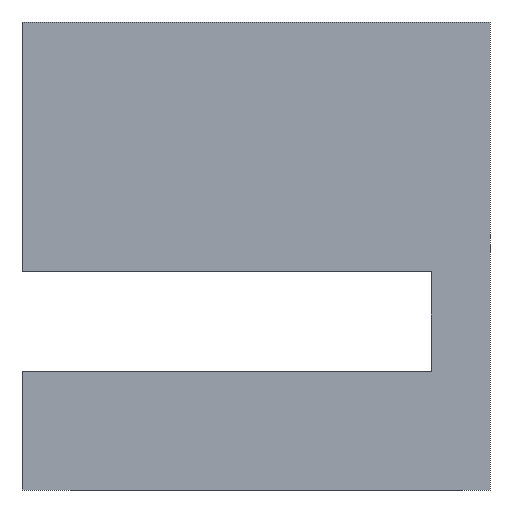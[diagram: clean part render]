
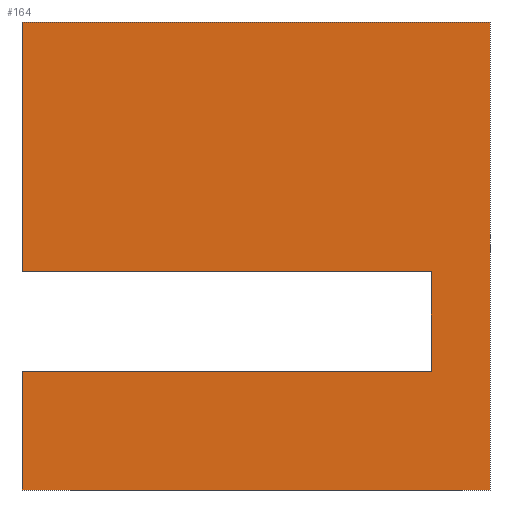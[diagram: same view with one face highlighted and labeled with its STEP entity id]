
A CAD part, front view. The second image highlights one B-rep face of the part: STEP entity #164.
In plain terms, the highlighted planar face has unit normal (0, -1, 0).
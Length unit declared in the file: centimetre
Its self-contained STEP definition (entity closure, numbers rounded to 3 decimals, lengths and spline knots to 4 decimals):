
#16 = VERTEX_POINT ( 'NONE', #547 ) ;
#19 = VECTOR ( 'NONE', #118, 100. ) ;
#28 = ORIENTED_EDGE ( 'NONE', *, *, #612, .T. ) ;
#38 = CARTESIAN_POINT ( 'NONE',  ( 0., 0., 253.2319 ) ) ;
#39 = ORIENTED_EDGE ( 'NONE', *, *, #404, .F. ) ;
#63 = VECTOR ( 'NONE', #133, 100. ) ;
#71 = EDGE_CURVE ( 'NONE', #525, #437, #149, .T. ) ;
#91 = CARTESIAN_POINT ( 'NONE',  ( 0., 0., 0. ) ) ;
#99 = CARTESIAN_POINT ( 'NONE',  ( 0., 0., 1000. ) ) ;
#104 = ORIENTED_EDGE ( 'NONE', *, *, #339, .F. ) ;
#113 = VECTOR ( 'NONE', #457, 100. ) ;
#114 = DIRECTION ( 'NONE',  ( 1., 0., 0. ) ) ;
#115 = EDGE_CURVE ( 'NONE', #481, #16, #512, .T. ) ;
#116 = VERTEX_POINT ( 'NONE', #91 ) ;
#117 = CARTESIAN_POINT ( 'NONE',  ( 874.4992, 0., 253.2319 ) ) ;
#118 = DIRECTION ( 'NONE',  ( 0., 0., 1. ) ) ;
#129 = DIRECTION ( 'NONE',  ( 0., 0., -1. ) ) ;
#133 = DIRECTION ( 'NONE',  ( 0., 0., -1. ) ) ;
#143 = ORIENTED_EDGE ( 'NONE', *, *, #115, .T. ) ;
#149 = LINE ( 'NONE', #38, #433 ) ;
#155 = AXIS2_PLACEMENT_3D ( 'NONE', #421, #521, #187 ) ;
#158 = VECTOR ( 'NONE', #249, 100. ) ;
#164 = ADVANCED_FACE ( 'NONE', ( #327 ), #370, .F. ) ;
#166 = LINE ( 'NONE', #311, #19 ) ;
#168 = CARTESIAN_POINT ( 'NONE',  ( 1000., 0., 0. ) ) ;
#170 = CARTESIAN_POINT ( 'NONE',  ( 0., 0., 1000. ) ) ;
#186 = LINE ( 'NONE', #99, #454 ) ;
#187 = DIRECTION ( 'NONE',  ( 0., 0., 1. ) ) ;
#189 = VERTEX_POINT ( 'NONE', #585 ) ;
#207 = VECTOR ( 'NONE', #114, 100. ) ;
#215 = DIRECTION ( 'NONE',  ( 1., 0., 0. ) ) ;
#218 = EDGE_CURVE ( 'NONE', #116, #497, #441, .T. ) ;
#249 = DIRECTION ( 'NONE',  ( 0., 0., -1. ) ) ;
#258 = CARTESIAN_POINT ( 'NONE',  ( 1000., 0., 1000. ) ) ;
#263 = VERTEX_POINT ( 'NONE', #258 ) ;
#272 = CARTESIAN_POINT ( 'NONE',  ( 0., 0., 466.5847 ) ) ;
#311 = CARTESIAN_POINT ( 'NONE',  ( 874.4992, 0., 253.2319 ) ) ;
#327 = FACE_OUTER_BOUND ( 'NONE', #522, .T. ) ;
#332 = ORIENTED_EDGE ( 'NONE', *, *, #593, .F. ) ;
#339 = EDGE_CURVE ( 'NONE', #263, #497, #411, .T. ) ;
#370 = PLANE ( 'NONE',  #155 ) ;
#375 = CARTESIAN_POINT ( 'NONE',  ( 0., 0., 1000. ) ) ;
#381 = ORIENTED_EDGE ( 'NONE', *, *, #446, .F. ) ;
#382 = CARTESIAN_POINT ( 'NONE',  ( 0., 0., 253.2319 ) ) ;
#388 = CARTESIAN_POINT ( 'NONE',  ( 0., 0., 0. ) ) ;
#403 = CARTESIAN_POINT ( 'NONE',  ( 0., 0., 1000. ) ) ;
#404 = EDGE_CURVE ( 'NONE', #481, #263, #449, .T. ) ;
#405 = VECTOR ( 'NONE', #215, 100. ) ;
#411 = LINE ( 'NONE', #514, #63 ) ;
#421 = CARTESIAN_POINT ( 'NONE',  ( 0., 0., 1000. ) ) ;
#433 = VECTOR ( 'NONE', #516, 100. ) ;
#437 = VERTEX_POINT ( 'NONE', #117 ) ;
#441 = LINE ( 'NONE', #388, #207 ) ;
#446 = EDGE_CURVE ( 'NONE', #437, #189, #166, .T. ) ;
#449 = LINE ( 'NONE', #403, #405 ) ;
#454 = VECTOR ( 'NONE', #129, 100. ) ;
#457 = DIRECTION ( 'NONE',  ( -1., 0., 0. ) ) ;
#481 = VERTEX_POINT ( 'NONE', #170 ) ;
#497 = VERTEX_POINT ( 'NONE', #168 ) ;
#502 = ORIENTED_EDGE ( 'NONE', *, *, #71, .F. ) ;
#512 = LINE ( 'NONE', #375, #158 ) ;
#514 = CARTESIAN_POINT ( 'NONE',  ( 1000., 0., 1000. ) ) ;
#516 = DIRECTION ( 'NONE',  ( 1., 0., 0. ) ) ;
#521 = DIRECTION ( 'NONE',  ( 0., 1., 0. ) ) ;
#522 = EDGE_LOOP ( 'NONE', ( #143, #332, #381, #502, #28, #586, #104, #39 ) ) ;
#525 = VERTEX_POINT ( 'NONE', #382 ) ;
#547 = CARTESIAN_POINT ( 'NONE',  ( 0., 0., 466.5847 ) ) ;
#585 = CARTESIAN_POINT ( 'NONE',  ( 874.4992, 0., 466.5847 ) ) ;
#586 = ORIENTED_EDGE ( 'NONE', *, *, #218, .T. ) ;
#593 = EDGE_CURVE ( 'NONE', #189, #16, #611, .T. ) ;
#611 = LINE ( 'NONE', #272, #113 ) ;
#612 = EDGE_CURVE ( 'NONE', #525, #116, #186, .T. ) ;
